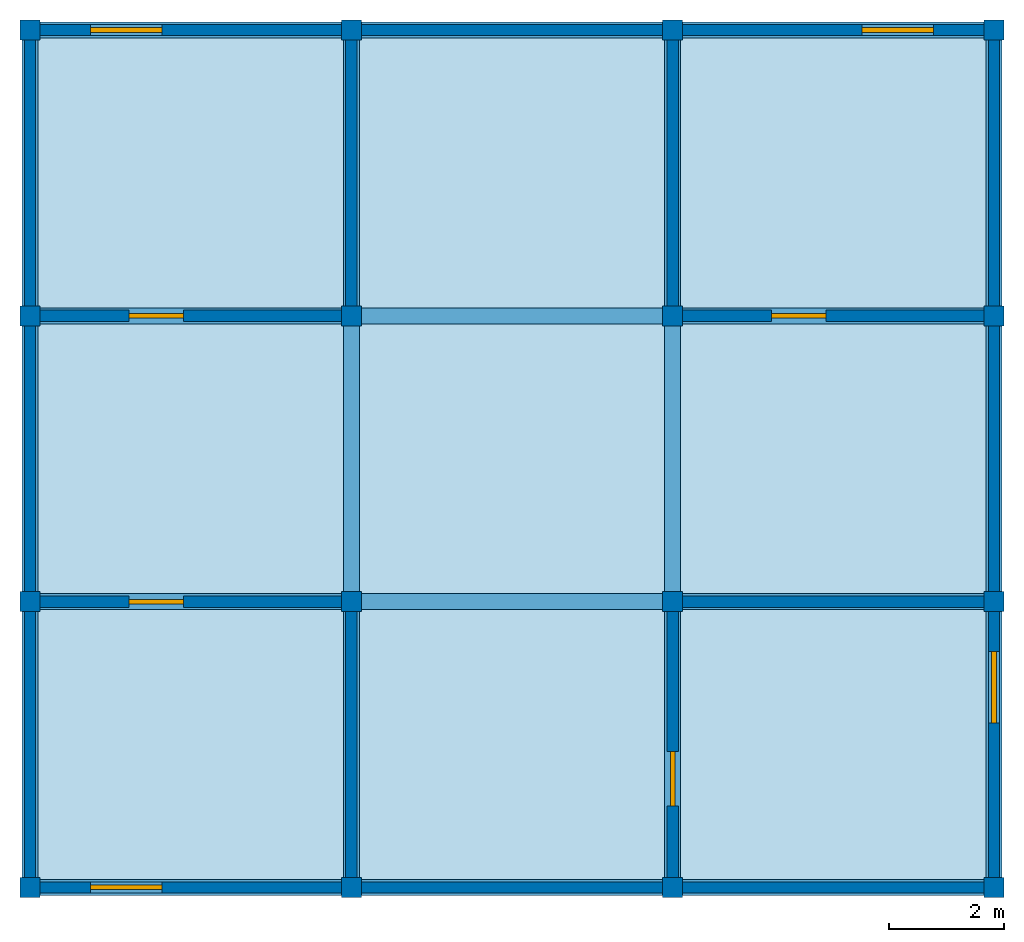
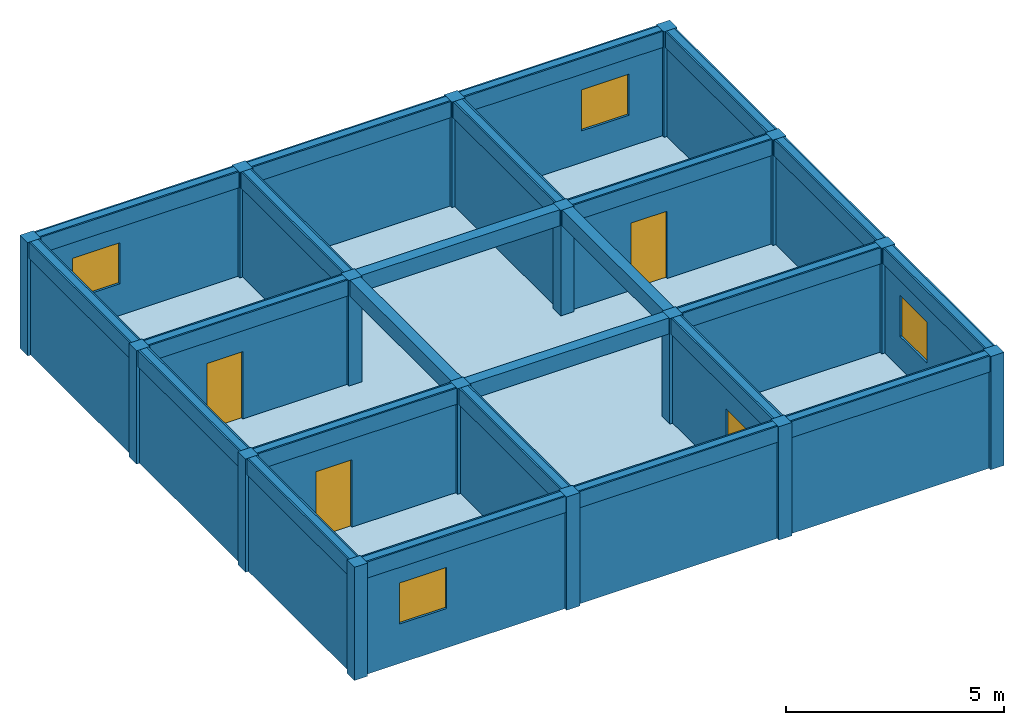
# One storey: 24 beams, 20 walls, 16 columns, 4 doors, 4 windows, 1 slab, 8 openings.
"""IFC4X3 building model written with IfcOpenShell, lengths in metres."""

from ifc_helpers import new_model, si_unit, frame, origin_with_axes, origin_2d, place, context, project, spatial, rectangle, extrude, material, element, fill, save


model = new_model("IFC4X3")

# Units and contexts
model_context = context("Model", 3, precision=1e-05, world=origin_with_axes())
ifc_project = project(units=[si_unit("LENGTHUNIT", "METRE"), si_unit("AREAUNIT", "SQUARE_METRE"), si_unit("VOLUMEUNIT", "CUBIC_METRE")], contexts=[model_context])

# Site, building, storey
site = spatial("IfcSite", under=ifc_project, Name="Puerto Montt Parcel", CompositionType="ELEMENT")
building = spatial("IfcBuilding", under=site, Name="Apex Hub", CompositionType="ELEMENT")
storey = spatial("IfcBuildingStorey", under=building, Name="Level 11", CompositionType="ELEMENT", Elevation=31.67)

# Columns
ifc_material_1 = material(Name="Timber")
column_1_placement = place(None, frame((-8.415, -7.485, 31.672), z_axis=(0.0, 0.0, 1.0), x_axis=(1.0, 0.0, 0.0)))
element("IfcColumn", 1, at=column_1_placement, inside=storey, material=ifc_material_1, Name="Column 11.1", ObjectType="Structural Column", PredefinedType="COLUMN", context=model_context, shape_type="SweptSolid", body=[
    extrude(rectangle(XDim=0.35, YDim=0.35, at=origin_2d()), origin_with_axes(), (0.0, 0.0, 1.0), 3.167),
])
column_2_placement = place(None, frame((-8.415, -2.495, 31.672), z_axis=(0.0, 0.0, 1.0), x_axis=(1.0, 0.0, 0.0)))
element("IfcColumn", 2, at=column_2_placement, inside=storey, material=ifc_material_1, Name="Column 11.2", ObjectType="Facade Column", PredefinedType="PILASTER", context=model_context, shape_type="SweptSolid", body=[
    extrude(rectangle(XDim=0.35, YDim=0.35, at=origin_2d()), origin_with_axes(), (0.0, 0.0, 1.0), 3.167),
])
column_3_placement = place(None, frame((-8.415, 2.495, 31.672), z_axis=(0.0, 0.0, 1.0), x_axis=(1.0, 0.0, 0.0)))
element("IfcColumn", 3, at=column_3_placement, inside=storey, material=ifc_material_1, Name="Column 11.3", ObjectType="Corner Column", PredefinedType="PILASTER", context=model_context, shape_type="SweptSolid", body=[
    extrude(rectangle(XDim=0.35, YDim=0.35, at=origin_2d()), origin_with_axes(), (0.0, 0.0, 1.0), 3.167),
])
column_4_placement = place(None, frame((-8.415, 7.485, 31.672), z_axis=(0.0, 0.0, 1.0), x_axis=(1.0, 0.0, 0.0)))
element("IfcColumn", 4, at=column_4_placement, inside=storey, material=ifc_material_1, Name="Column 11.4", ObjectType="Core Column", PredefinedType="NOTDEFINED", context=model_context, shape_type="SweptSolid", body=[
    extrude(rectangle(XDim=0.35, YDim=0.35, at=origin_2d()), origin_with_axes(), (0.0, 0.0, 1.0), 3.167),
])
column_5_placement = place(None, frame((-2.805, -7.485, 31.672), z_axis=(0.0, 0.0, 1.0), x_axis=(1.0, 0.0, 0.0)))
element("IfcColumn", 5, at=column_5_placement, inside=storey, material=ifc_material_1, Name="Column 11.5", ObjectType="Facade Column", PredefinedType="PILASTER", context=model_context, shape_type="SweptSolid", body=[
    extrude(rectangle(XDim=0.35, YDim=0.35, at=origin_2d()), origin_with_axes(), (0.0, 0.0, 1.0), 3.167),
])
column_6_placement = place(None, frame((-2.805, -2.495, 31.672), z_axis=(0.0, 0.0, 1.0), x_axis=(1.0, 0.0, 0.0)))
element("IfcColumn", 6, at=column_6_placement, inside=storey, material=ifc_material_1, Name="Column 11.6", ObjectType="Core Column", PredefinedType="COLUMN", context=model_context, shape_type="SweptSolid", body=[
    extrude(rectangle(XDim=0.35, YDim=0.35, at=origin_2d()), origin_with_axes(), (0.0, 0.0, 1.0), 3.167),
])
column_7_placement = place(None, frame((-2.805, 2.495, 31.672), z_axis=(0.0, 0.0, 1.0), x_axis=(1.0, 0.0, 0.0)))
element("IfcColumn", 7, at=column_7_placement, inside=storey, material=ifc_material_1, Name="Column 11.7", ObjectType="Core Column", PredefinedType="NOTDEFINED", context=model_context, shape_type="SweptSolid", body=[
    extrude(rectangle(XDim=0.35, YDim=0.35, at=origin_2d()), origin_with_axes(), (0.0, 0.0, 1.0), 3.167),
])
column_8_placement = place(None, frame((-2.805, 7.485, 31.672), z_axis=(0.0, 0.0, 1.0), x_axis=(1.0, 0.0, 0.0)))
element("IfcColumn", 8, at=column_8_placement, inside=storey, material=ifc_material_1, Name="Column 11.8", ObjectType="Structural Column", PredefinedType="NOTDEFINED", context=model_context, shape_type="SweptSolid", body=[
    extrude(rectangle(XDim=0.35, YDim=0.35, at=origin_2d()), origin_with_axes(), (0.0, 0.0, 1.0), 3.167),
])
column_9_placement = place(None, frame((2.805, -7.485, 31.672), z_axis=(0.0, 0.0, 1.0), x_axis=(1.0, 0.0, 0.0)))
element("IfcColumn", 9, at=column_9_placement, inside=storey, material=ifc_material_1, Name="Column 11.9", ObjectType="Structural Column", PredefinedType="COLUMN", context=model_context, shape_type="SweptSolid", body=[
    extrude(rectangle(XDim=0.35, YDim=0.35, at=origin_2d()), origin_with_axes(), (0.0, 0.0, 1.0), 3.167),
])
column_10_placement = place(None, frame((2.805, -2.495, 31.672), z_axis=(0.0, 0.0, 1.0), x_axis=(1.0, 0.0, 0.0)))
element("IfcColumn", 10, at=column_10_placement, inside=storey, material=ifc_material_1, Name="Column 11.10", ObjectType="Structural Column", PredefinedType="PILASTER", context=model_context, shape_type="SweptSolid", body=[
    extrude(rectangle(XDim=0.35, YDim=0.35, at=origin_2d()), origin_with_axes(), (0.0, 0.0, 1.0), 3.167),
])
column_11_placement = place(None, frame((2.805, 2.495, 31.672), z_axis=(0.0, 0.0, 1.0), x_axis=(1.0, 0.0, 0.0)))
element("IfcColumn", 11, at=column_11_placement, inside=storey, material=ifc_material_1, Name="Column 11.11", ObjectType="Corner Column", PredefinedType="USERDEFINED", context=model_context, shape_type="SweptSolid", body=[
    extrude(rectangle(XDim=0.35, YDim=0.35, at=origin_2d()), origin_with_axes(), (0.0, 0.0, 1.0), 3.167),
])
column_12_placement = place(None, frame((2.805, 7.485, 31.672), z_axis=(0.0, 0.0, 1.0), x_axis=(1.0, 0.0, 0.0)))
element("IfcColumn", 12, at=column_12_placement, inside=storey, material=ifc_material_1, Name="Column 11.12", ObjectType="Facade Column", PredefinedType="PILASTER", context=model_context, shape_type="SweptSolid", body=[
    extrude(rectangle(XDim=0.35, YDim=0.35, at=origin_2d()), origin_with_axes(), (0.0, 0.0, 1.0), 3.167),
])
column_13_placement = place(None, frame((8.415, -7.485, 31.672), z_axis=(0.0, 0.0, 1.0), x_axis=(1.0, 0.0, 0.0)))
element("IfcColumn", 13, at=column_13_placement, inside=storey, material=ifc_material_1, Name="Column 11.13", ObjectType="Structural Column", PredefinedType="PILASTER", context=model_context, shape_type="SweptSolid", body=[
    extrude(rectangle(XDim=0.35, YDim=0.35, at=origin_2d()), origin_with_axes(), (0.0, 0.0, 1.0), 3.167),
])
column_14_placement = place(None, frame((8.415, -2.495, 31.672), z_axis=(0.0, 0.0, 1.0), x_axis=(1.0, 0.0, 0.0)))
element("IfcColumn", 14, at=column_14_placement, inside=storey, material=ifc_material_1, Name="Column 11.14", ObjectType="Facade Column", PredefinedType="USERDEFINED", context=model_context, shape_type="SweptSolid", body=[
    extrude(rectangle(XDim=0.35, YDim=0.35, at=origin_2d()), origin_with_axes(), (0.0, 0.0, 1.0), 3.167),
])
column_15_placement = place(None, frame((8.415, 2.495, 31.672), z_axis=(0.0, 0.0, 1.0), x_axis=(1.0, 0.0, 0.0)))
element("IfcColumn", 15, at=column_15_placement, inside=storey, material=ifc_material_1, Name="Column 11.15", ObjectType="Corner Column", PredefinedType="COLUMN", context=model_context, shape_type="SweptSolid", body=[
    extrude(rectangle(XDim=0.35, YDim=0.35, at=origin_2d()), origin_with_axes(), (0.0, 0.0, 1.0), 3.167),
])
column_16_placement = place(None, frame((8.415, 7.485, 31.672), z_axis=(0.0, 0.0, 1.0), x_axis=(1.0, 0.0, 0.0)))
element("IfcColumn", 16, at=column_16_placement, inside=storey, material=ifc_material_1, Name="Column 11.16", ObjectType="Facade Column", PredefinedType="PILASTER", context=model_context, shape_type="SweptSolid", body=[
    extrude(rectangle(XDim=0.35, YDim=0.35, at=origin_2d()), origin_with_axes(), (0.0, 0.0, 1.0), 3.167),
])

# Beams
ifc_material_2 = material(Name="Concrete")
beam_1_placement = place(None, frame((-5.61, -7.485, 34.389), z_axis=(0.0, 0.0, 1.0), x_axis=(1.0, 0.0, 0.0)))
element("IfcBeam", 17, at=beam_1_placement, inside=storey, material=ifc_material_2, Name="Beam 11.1", ObjectType="Transfer Beam", PredefinedType="JOIST", context=model_context, shape_type="SweptSolid", body=[
    extrude(rectangle(XDim=5.61, YDim=0.28, at=origin_2d()), origin_with_axes(), (0.0, 0.0, 1.0), 0.45),
])
beam_2_placement = place(None, frame((0.0, -7.485, 34.389), z_axis=(0.0, 0.0, 1.0), x_axis=(1.0, 0.0, 0.0)))
element("IfcBeam", 18, at=beam_2_placement, inside=storey, material=ifc_material_2, Name="Beam 11.2", ObjectType="Ridge Beam", PredefinedType="BEAM", context=model_context, shape_type="SweptSolid", body=[
    extrude(rectangle(XDim=5.61, YDim=0.28, at=origin_2d()), origin_with_axes(), (0.0, 0.0, 1.0), 0.45),
])
beam_3_placement = place(None, frame((5.61, -7.485, 34.389), z_axis=(0.0, 0.0, 1.0), x_axis=(1.0, 0.0, 0.0)))
element("IfcBeam", 19, at=beam_3_placement, inside=storey, material=ifc_material_2, Name="Beam 11.3", ObjectType="Transfer Beam", PredefinedType="T_BEAM", context=model_context, shape_type="SweptSolid", body=[
    extrude(rectangle(XDim=5.61, YDim=0.28, at=origin_2d()), origin_with_axes(), (0.0, 0.0, 1.0), 0.45),
])
beam_4_placement = place(None, frame((-5.61, -2.495, 34.389), z_axis=(0.0, 0.0, 1.0), x_axis=(1.0, 0.0, 0.0)))
element("IfcBeam", 20, at=beam_4_placement, inside=storey, material=ifc_material_2, Name="Beam 11.4", ObjectType="Primary Beam", PredefinedType="NOTDEFINED", context=model_context, shape_type="SweptSolid", body=[
    extrude(rectangle(XDim=5.61, YDim=0.28, at=origin_2d()), origin_with_axes(), (0.0, 0.0, 1.0), 0.45),
])
beam_5_placement = place(None, frame((0.0, -2.495, 34.389), z_axis=(0.0, 0.0, 1.0), x_axis=(1.0, 0.0, 0.0)))
element("IfcBeam", 21, at=beam_5_placement, inside=storey, material=ifc_material_2, Name="Beam 11.5", ObjectType="Transfer Beam", PredefinedType="T_BEAM", context=model_context, shape_type="SweptSolid", body=[
    extrude(rectangle(XDim=5.61, YDim=0.28, at=origin_2d()), origin_with_axes(), (0.0, 0.0, 1.0), 0.45),
])
beam_6_placement = place(None, frame((5.61, -2.495, 34.389), z_axis=(0.0, 0.0, 1.0), x_axis=(1.0, 0.0, 0.0)))
element("IfcBeam", 22, at=beam_6_placement, inside=storey, material=ifc_material_2, Name="Beam 11.6", ObjectType="Transfer Beam", PredefinedType="HOLLOWCORE", context=model_context, shape_type="SweptSolid", body=[
    extrude(rectangle(XDim=5.61, YDim=0.28, at=origin_2d()), origin_with_axes(), (0.0, 0.0, 1.0), 0.45),
])
beam_7_placement = place(None, frame((-5.61, 2.495, 34.389), z_axis=(0.0, 0.0, 1.0), x_axis=(1.0, 0.0, 0.0)))
element("IfcBeam", 23, at=beam_7_placement, inside=storey, material=ifc_material_2, Name="Beam 11.7", ObjectType="Transfer Beam", PredefinedType="T_BEAM", context=model_context, shape_type="SweptSolid", body=[
    extrude(rectangle(XDim=5.61, YDim=0.28, at=origin_2d()), origin_with_axes(), (0.0, 0.0, 1.0), 0.45),
])
beam_8_placement = place(None, frame((0.0, 2.495, 34.389), z_axis=(0.0, 0.0, 1.0), x_axis=(1.0, 0.0, 0.0)))
element("IfcBeam", 24, at=beam_8_placement, inside=storey, material=ifc_material_2, Name="Beam 11.8", ObjectType="Transfer Beam", PredefinedType="NOTDEFINED", context=model_context, shape_type="SweptSolid", body=[
    extrude(rectangle(XDim=5.61, YDim=0.28, at=origin_2d()), origin_with_axes(), (0.0, 0.0, 1.0), 0.45),
])
beam_9_placement = place(None, frame((5.61, 2.495, 34.389), z_axis=(0.0, 0.0, 1.0), x_axis=(1.0, 0.0, 0.0)))
element("IfcBeam", 25, at=beam_9_placement, inside=storey, material=ifc_material_2, Name="Beam 11.9", ObjectType="Transfer Beam", PredefinedType="LINTEL", context=model_context, shape_type="SweptSolid", body=[
    extrude(rectangle(XDim=5.61, YDim=0.28, at=origin_2d()), origin_with_axes(), (0.0, 0.0, 1.0), 0.45),
])
beam_10_placement = place(None, frame((-5.61, 7.485, 34.389), z_axis=(0.0, 0.0, 1.0), x_axis=(1.0, 0.0, 0.0)))
element("IfcBeam", 26, at=beam_10_placement, inside=storey, material=ifc_material_2, Name="Beam 11.10", ObjectType="Rafter Beam", PredefinedType="JOIST", context=model_context, shape_type="SweptSolid", body=[
    extrude(rectangle(XDim=5.61, YDim=0.28, at=origin_2d()), origin_with_axes(), (0.0, 0.0, 1.0), 0.45),
])
beam_11_placement = place(None, frame((0.0, 7.485, 34.389), z_axis=(0.0, 0.0, 1.0), x_axis=(1.0, 0.0, 0.0)))
element("IfcBeam", 27, at=beam_11_placement, inside=storey, material=ifc_material_2, Name="Beam 11.11", ObjectType="Primary Beam", PredefinedType="LINTEL", context=model_context, shape_type="SweptSolid", body=[
    extrude(rectangle(XDim=5.61, YDim=0.28, at=origin_2d()), origin_with_axes(), (0.0, 0.0, 1.0), 0.45),
])
beam_12_placement = place(None, frame((5.61, 7.485, 34.389), z_axis=(0.0, 0.0, 1.0), x_axis=(1.0, 0.0, 0.0)))
element("IfcBeam", 28, at=beam_12_placement, inside=storey, material=ifc_material_2, Name="Beam 11.12", ObjectType="Rafter Beam", PredefinedType="SPANDREL", context=model_context, shape_type="SweptSolid", body=[
    extrude(rectangle(XDim=5.61, YDim=0.28, at=origin_2d()), origin_with_axes(), (0.0, 0.0, 1.0), 0.45),
])
beam_13_placement = place(None, frame((-8.415, -4.99, 34.389), z_axis=(0.0, 0.0, 1.0), x_axis=(0.0, 1.0, 0.0)))
element("IfcBeam", 29, at=beam_13_placement, inside=storey, material=ifc_material_2, Name="Beam 11.13", ObjectType="Ridge Beam", PredefinedType="SPANDREL", context=model_context, shape_type="SweptSolid", body=[
    extrude(rectangle(XDim=4.99, YDim=0.28, at=origin_2d()), origin_with_axes(), (0.0, 0.0, 1.0), 0.45),
])
beam_14_placement = place(None, frame((-8.415, 0.0, 34.389), z_axis=(0.0, 0.0, 1.0), x_axis=(0.0, 1.0, 0.0)))
element("IfcBeam", 30, at=beam_14_placement, inside=storey, material=ifc_material_2, Name="Beam 11.14", ObjectType="Transfer Beam", PredefinedType="T_BEAM", context=model_context, shape_type="SweptSolid", body=[
    extrude(rectangle(XDim=4.99, YDim=0.28, at=origin_2d()), origin_with_axes(), (0.0, 0.0, 1.0), 0.45),
])
beam_15_placement = place(None, frame((-8.415, 4.99, 34.389), z_axis=(0.0, 0.0, 1.0), x_axis=(0.0, 1.0, 0.0)))
element("IfcBeam", 31, at=beam_15_placement, inside=storey, material=ifc_material_2, Name="Beam 11.15", ObjectType="Rafter Beam", PredefinedType="BEAM", context=model_context, shape_type="SweptSolid", body=[
    extrude(rectangle(XDim=4.99, YDim=0.28, at=origin_2d()), origin_with_axes(), (0.0, 0.0, 1.0), 0.45),
])
beam_16_placement = place(None, frame((-2.805, -4.99, 34.389), z_axis=(0.0, 0.0, 1.0), x_axis=(0.0, 1.0, 0.0)))
element("IfcBeam", 32, at=beam_16_placement, inside=storey, material=ifc_material_2, Name="Beam 11.16", ObjectType="Secondary Beam", PredefinedType="T_BEAM", context=model_context, shape_type="SweptSolid", body=[
    extrude(rectangle(XDim=4.99, YDim=0.28, at=origin_2d()), origin_with_axes(), (0.0, 0.0, 1.0), 0.45),
])
beam_17_placement = place(None, frame((-2.805, 0.0, 34.389), z_axis=(0.0, 0.0, 1.0), x_axis=(0.0, 1.0, 0.0)))
element("IfcBeam", 33, at=beam_17_placement, inside=storey, material=ifc_material_2, Name="Beam 11.17", ObjectType="Secondary Beam", PredefinedType="HOLLOWCORE", context=model_context, shape_type="SweptSolid", body=[
    extrude(rectangle(XDim=4.99, YDim=0.28, at=origin_2d()), origin_with_axes(), (0.0, 0.0, 1.0), 0.45),
])
beam_18_placement = place(None, frame((-2.805, 4.99, 34.389), z_axis=(0.0, 0.0, 1.0), x_axis=(0.0, 1.0, 0.0)))
element("IfcBeam", 34, at=beam_18_placement, inside=storey, material=ifc_material_2, Name="Beam 11.18", ObjectType="Secondary Beam", PredefinedType="T_BEAM", context=model_context, shape_type="SweptSolid", body=[
    extrude(rectangle(XDim=4.99, YDim=0.28, at=origin_2d()), origin_with_axes(), (0.0, 0.0, 1.0), 0.45),
])
beam_19_placement = place(None, frame((2.805, -4.99, 34.389), z_axis=(0.0, 0.0, 1.0), x_axis=(0.0, 1.0, 0.0)))
element("IfcBeam", 35, at=beam_19_placement, inside=storey, material=ifc_material_2, Name="Beam 11.19", ObjectType="Rafter Beam", PredefinedType="LINTEL", context=model_context, shape_type="SweptSolid", body=[
    extrude(rectangle(XDim=4.99, YDim=0.28, at=origin_2d()), origin_with_axes(), (0.0, 0.0, 1.0), 0.45),
])
beam_20_placement = place(None, frame((2.805, 0.0, 34.389), z_axis=(0.0, 0.0, 1.0), x_axis=(0.0, 1.0, 0.0)))
element("IfcBeam", 36, at=beam_20_placement, inside=storey, material=ifc_material_2, Name="Beam 11.20", ObjectType="Secondary Beam", PredefinedType="USERDEFINED", context=model_context, shape_type="SweptSolid", body=[
    extrude(rectangle(XDim=4.99, YDim=0.28, at=origin_2d()), origin_with_axes(), (0.0, 0.0, 1.0), 0.45),
])
beam_21_placement = place(None, frame((2.805, 4.99, 34.389), z_axis=(0.0, 0.0, 1.0), x_axis=(0.0, 1.0, 0.0)))
element("IfcBeam", 37, at=beam_21_placement, inside=storey, material=ifc_material_2, Name="Beam 11.21", ObjectType="Rafter Beam", PredefinedType="LINTEL", context=model_context, shape_type="SweptSolid", body=[
    extrude(rectangle(XDim=4.99, YDim=0.28, at=origin_2d()), origin_with_axes(), (0.0, 0.0, 1.0), 0.45),
])
beam_22_placement = place(None, frame((8.415, -4.99, 34.389), z_axis=(0.0, 0.0, 1.0), x_axis=(0.0, 1.0, 0.0)))
element("IfcBeam", 38, at=beam_22_placement, inside=storey, material=ifc_material_2, Name="Beam 11.22", ObjectType="Secondary Beam", PredefinedType="USERDEFINED", context=model_context, shape_type="SweptSolid", body=[
    extrude(rectangle(XDim=4.99, YDim=0.28, at=origin_2d()), origin_with_axes(), (0.0, 0.0, 1.0), 0.45),
])
beam_23_placement = place(None, frame((8.415, 0.0, 34.389), z_axis=(0.0, 0.0, 1.0), x_axis=(0.0, 1.0, 0.0)))
element("IfcBeam", 39, at=beam_23_placement, inside=storey, material=ifc_material_2, Name="Beam 11.23", ObjectType="Rafter Beam", PredefinedType="LINTEL", context=model_context, shape_type="SweptSolid", body=[
    extrude(rectangle(XDim=4.99, YDim=0.28, at=origin_2d()), origin_with_axes(), (0.0, 0.0, 1.0), 0.45),
])
beam_24_placement = place(None, frame((8.415, 4.99, 34.389), z_axis=(0.0, 0.0, 1.0), x_axis=(0.0, 1.0, 0.0)))
element("IfcBeam", 40, at=beam_24_placement, inside=storey, material=ifc_material_2, Name="Beam 11.24", ObjectType="Primary Beam", PredefinedType="BEAM", context=model_context, shape_type="SweptSolid", body=[
    extrude(rectangle(XDim=4.99, YDim=0.28, at=origin_2d()), origin_with_axes(), (0.0, 0.0, 1.0), 0.45),
])

# Slab
slab_placement = place(None, frame((0.0, 0.0, 31.67), z_axis=(0.0, 0.0, 1.0), x_axis=(1.0, 0.0, 0.0)))
element("IfcSlab", 41, at=slab_placement, inside=storey, material=ifc_material_1, Name="Slab 11", ObjectType="Floor Slab", PredefinedType="FLOOR", context=model_context, shape_type="SweptSolid", body=[
    extrude(rectangle(XDim=16.83, YDim=14.97, at=origin_2d()), origin_with_axes(), (0.0, 0.0, 1.0), 0.22),
])

# Wall, opening, door
wall_1_placement = place(None, frame((-5.61, -2.495, 31.672), z_axis=(0.0, 0.0, 1.0), x_axis=(1.0, 0.0, 0.0)))
wall_1 = element("IfcWall", 42, at=wall_1_placement, inside=storey, material=ifc_material_2, Name="Wall 11.1", ObjectType="Corridor Partition", PredefinedType="PARTITIONING", context=model_context, shape_type="SweptSolid", body=[
    extrude(rectangle(XDim=5.61, YDim=0.196044, at=origin_2d()), origin_with_axes(), (0.0, 0.0, 1.0), 3.167),
])
opening_1_placement = place(None, frame((-6.21, -2.495, 31.672), z_axis=(0.0, 0.0, 1.0), x_axis=(1.0, 0.0, 0.0)))
opening_1 = element("IfcOpeningElement", 43, at=opening_1_placement, cuts=wall_1, Name="Door opening 11.1", ObjectType="Door Opening", PredefinedType="OPENING", context=model_context, shape_type="SweptSolid", body=[
    extrude(rectangle(XDim=0.95, YDim=0.276044, at=origin_2d()), origin_with_axes(), (0.0, 0.0, 1.0), 2.1),
])
door_1_placement = place(None, frame((-6.21, -2.495, 31.672), z_axis=(0.0, 0.0, 1.0), x_axis=(1.0, 0.0, 0.0)))
door_1 = element("IfcDoor", 44, at=door_1_placement, inside=storey, Name="Door 11.1", ObjectType="Fire Door", OverallHeight=2.1, OverallWidth=0.95, context=model_context, shape_type="SweptSolid", body=[
    extrude(rectangle(XDim=0.95, YDim=0.08, at=origin_2d()), origin_with_axes(), (0.0, 0.0, 1.0), 2.1),
])
fill(opening_1, door_1)

# Wall
wall_2_placement = place(None, frame((-2.805, -4.99, 31.672), z_axis=(0.0, 0.0, 1.0), x_axis=(0.0, 1.0, 0.0)))
element("IfcWall", 45, at=wall_2_placement, inside=storey, material=ifc_material_2, Name="Wall 11.2", ObjectType="Corridor Partition", PredefinedType="PARTITIONING", context=model_context, shape_type="SweptSolid", body=[
    extrude(rectangle(XDim=4.99, YDim=0.196044, at=origin_2d()), origin_with_axes(), (0.0, 0.0, 1.0), 3.167),
])

# Wall, opening, window
ifc_material_3 = material(Name="Gypsum")
wall_3_placement = place(None, frame((-5.61, -7.485, 31.672), z_axis=(0.0, 0.0, 1.0), x_axis=(1.0, 0.0, 0.0)))
wall_3 = element("IfcWall", 46, at=wall_3_placement, inside=storey, material=ifc_material_3, Name="Wall 11.3", ObjectType="Exterior Wall", PredefinedType="USERDEFINED", context=model_context, shape_type="SweptSolid", body=[
    extrude(rectangle(XDim=5.61, YDim=0.196044, at=origin_2d()), origin_with_axes(), (0.0, 0.0, 1.0), 3.167),
])
opening_2_placement = place(None, frame((-6.732, -7.485, 32.772), z_axis=(0.0, 0.0, 1.0), x_axis=(1.0, 0.0, 0.0)))
opening_2 = element("IfcOpeningElement", 47, at=opening_2_placement, cuts=wall_3, Name="Window opening 11.2", ObjectType="Window Opening", PredefinedType="OPENING", context=model_context, shape_type="SweptSolid", body=[
    extrude(rectangle(XDim=1.25, YDim=0.276044, at=origin_2d()), origin_with_axes(), (0.0, 0.0, 1.0), 1.15),
])
window_1_placement = place(None, frame((-6.732, -7.485, 32.772), z_axis=(0.0, 0.0, 1.0), x_axis=(1.0, 0.0, 0.0)))
window_1 = element("IfcWindow", 48, at=window_1_placement, inside=storey, Name="Window 11.2", ObjectType="Operable Window", OverallHeight=1.15, OverallWidth=1.25, context=model_context, shape_type="SweptSolid", body=[
    extrude(rectangle(XDim=1.25, YDim=0.08, at=origin_2d()), origin_with_axes(), (0.0, 0.0, 1.0), 1.15),
])
fill(opening_2, window_1)

# Wall
wall_4_placement = place(None, frame((-8.415, -4.99, 31.672), z_axis=(0.0, 0.0, 1.0), x_axis=(0.0, 1.0, 0.0)))
element("IfcWall", 49, at=wall_4_placement, inside=storey, material=ifc_material_3, Name="Wall 11.4", ObjectType="Exterior Wall", PredefinedType="PARAPET", context=model_context, shape_type="SweptSolid", body=[
    extrude(rectangle(XDim=4.99, YDim=0.196044, at=origin_2d()), origin_with_axes(), (0.0, 0.0, 1.0), 3.167),
])

# Wall, opening, door
wall_5_placement = place(None, frame((2.805, -4.99, 31.672), z_axis=(0.0, 0.0, 1.0), x_axis=(0.0, 1.0, 0.0)))
wall_5 = element("IfcWall", 50, at=wall_5_placement, inside=storey, material=ifc_material_2, Name="Wall 11.5", ObjectType="Corridor Partition", PredefinedType="MOVABLE", context=model_context, shape_type="SweptSolid", body=[
    extrude(rectangle(XDim=4.99, YDim=0.196044, at=origin_2d()), origin_with_axes(), (0.0, 0.0, 1.0), 3.167),
])
opening_3_placement = place(None, frame((2.805, -5.59, 31.672), z_axis=(0.0, 0.0, 1.0), x_axis=(0.0, 1.0, 0.0)))
opening_3 = element("IfcOpeningElement", 51, at=opening_3_placement, cuts=wall_5, Name="Door opening 11.3", ObjectType="Door Opening", PredefinedType="OPENING", context=model_context, shape_type="SweptSolid", body=[
    extrude(rectangle(XDim=0.95, YDim=0.276044, at=origin_2d()), origin_with_axes(), (0.0, 0.0, 1.0), 2.1),
])
door_2_placement = place(None, frame((2.805, -5.59, 31.672), z_axis=(0.0, 0.0, 1.0), x_axis=(0.0, 1.0, 0.0)))
door_2 = element("IfcDoor", 52, at=door_2_placement, inside=storey, Name="Door 11.3", ObjectType="Fire Door", OverallHeight=2.1, OverallWidth=0.95, context=model_context, shape_type="SweptSolid", body=[
    extrude(rectangle(XDim=0.95, YDim=0.08, at=origin_2d()), origin_with_axes(), (0.0, 0.0, 1.0), 2.1),
])
fill(opening_3, door_2)

# Walls
wall_6_placement = place(None, frame((0.0, -7.485, 31.672), z_axis=(0.0, 0.0, 1.0), x_axis=(1.0, 0.0, 0.0)))
element("IfcWall", 53, at=wall_6_placement, inside=storey, material=ifc_material_2, Name="Wall 11.6", ObjectType="Exterior Wall", PredefinedType="SHEAR", context=model_context, shape_type="SweptSolid", body=[
    extrude(rectangle(XDim=5.61, YDim=0.196044, at=origin_2d()), origin_with_axes(), (0.0, 0.0, 1.0), 3.167),
])
wall_7_placement = place(None, frame((5.61, -2.495, 31.672), z_axis=(0.0, 0.0, 1.0), x_axis=(1.0, 0.0, 0.0)))
element("IfcWall", 54, at=wall_7_placement, inside=storey, material=ifc_material_2, Name="Wall 11.7", ObjectType="Corridor Partition", PredefinedType="PLUMBINGWALL", context=model_context, shape_type="SweptSolid", body=[
    extrude(rectangle(XDim=5.61, YDim=0.196044, at=origin_2d()), origin_with_axes(), (0.0, 0.0, 1.0), 3.167),
])

# Wall, opening, window
wall_8_placement = place(None, frame((8.415, -4.99, 31.672), z_axis=(0.0, 0.0, 1.0), x_axis=(0.0, 1.0, 0.0)))
wall_8 = element("IfcWall", 55, at=wall_8_placement, inside=storey, material=ifc_material_2, Name="Wall 11.8", ObjectType="Exterior Wall", PredefinedType="MOVABLE", context=model_context, shape_type="SweptSolid", body=[
    extrude(rectangle(XDim=4.99, YDim=0.196044, at=origin_2d()), origin_with_axes(), (0.0, 0.0, 1.0), 3.167),
])
opening_4_placement = place(None, frame((8.415, -3.992, 32.772), z_axis=(0.0, 0.0, 1.0), x_axis=(0.0, 1.0, 0.0)))
opening_4 = element("IfcOpeningElement", 56, at=opening_4_placement, cuts=wall_8, Name="Window opening 11.4", ObjectType="Window Opening", PredefinedType="OPENING", context=model_context, shape_type="SweptSolid", body=[
    extrude(rectangle(XDim=1.25, YDim=0.276044, at=origin_2d()), origin_with_axes(), (0.0, 0.0, 1.0), 1.15),
])
window_2_placement = place(None, frame((8.415, -3.992, 32.772), z_axis=(0.0, 0.0, 1.0), x_axis=(0.0, 1.0, 0.0)))
window_2 = element("IfcWindow", 57, at=window_2_placement, inside=storey, Name="Window 11.4", ObjectType="Louvre Window", OverallHeight=1.15, OverallWidth=1.25, context=model_context, shape_type="SweptSolid", body=[
    extrude(rectangle(XDim=1.25, YDim=0.08, at=origin_2d()), origin_with_axes(), (0.0, 0.0, 1.0), 1.15),
])
fill(opening_4, window_2)

# Wall
ifc_material_4 = material(Name="CLT")
wall_9_placement = place(None, frame((5.61, -7.485, 31.672), z_axis=(0.0, 0.0, 1.0), x_axis=(1.0, 0.0, 0.0)))
element("IfcWall", 58, at=wall_9_placement, inside=storey, material=ifc_material_4, Name="Wall 11.9", ObjectType="Exterior Wall", PredefinedType="SOLIDWALL", context=model_context, shape_type="SweptSolid", body=[
    extrude(rectangle(XDim=5.61, YDim=0.196044, at=origin_2d()), origin_with_axes(), (0.0, 0.0, 1.0), 3.167),
])

# Wall, opening, door
ifc_material_5 = material(Name="Brick")
wall_10_placement = place(None, frame((-5.61, 2.495, 31.672), z_axis=(0.0, 0.0, 1.0), x_axis=(1.0, 0.0, 0.0)))
wall_10 = element("IfcWall", 59, at=wall_10_placement, inside=storey, material=ifc_material_5, Name="Wall 11.10", ObjectType="Corridor Partition", PredefinedType="NOTDEFINED", context=model_context, shape_type="SweptSolid", body=[
    extrude(rectangle(XDim=5.61, YDim=0.196044, at=origin_2d()), origin_with_axes(), (0.0, 0.0, 1.0), 3.167),
])
opening_5_placement = place(None, frame((-6.21, 2.495, 31.672), z_axis=(0.0, 0.0, 1.0), x_axis=(1.0, 0.0, 0.0)))
opening_5 = element("IfcOpeningElement", 60, at=opening_5_placement, cuts=wall_10, Name="Door opening 11.5", ObjectType="Door Opening", PredefinedType="OPENING", context=model_context, shape_type="SweptSolid", body=[
    extrude(rectangle(XDim=0.95, YDim=0.276044, at=origin_2d()), origin_with_axes(), (0.0, 0.0, 1.0), 2.1),
])
door_3_placement = place(None, frame((-6.21, 2.495, 31.672), z_axis=(0.0, 0.0, 1.0), x_axis=(1.0, 0.0, 0.0)))
door_3 = element("IfcDoor", 61, at=door_3_placement, inside=storey, Name="Door 11.5", ObjectType="Entry Door", OverallHeight=2.1, OverallWidth=0.95, context=model_context, shape_type="SweptSolid", body=[
    extrude(rectangle(XDim=0.95, YDim=0.08, at=origin_2d()), origin_with_axes(), (0.0, 0.0, 1.0), 2.1),
])
fill(opening_5, door_3)

# Wall
wall_11_placement = place(None, frame((-8.415, 0.0, 31.672), z_axis=(0.0, 0.0, 1.0), x_axis=(0.0, 1.0, 0.0)))
element("IfcWall", 62, at=wall_11_placement, inside=storey, material=ifc_material_4, Name="Wall 11.11", ObjectType="Exterior Wall", PredefinedType="POLYGONAL", context=model_context, shape_type="SweptSolid", body=[
    extrude(rectangle(XDim=4.99, YDim=0.196044, at=origin_2d()), origin_with_axes(), (0.0, 0.0, 1.0), 3.167),
])

# Wall, opening, door
wall_12_placement = place(None, frame((5.61, 2.495, 31.672), z_axis=(0.0, 0.0, 1.0), x_axis=(1.0, 0.0, 0.0)))
wall_12 = element("IfcWall", 63, at=wall_12_placement, inside=storey, material=ifc_material_4, Name="Wall 11.12", ObjectType="Corridor Partition", PredefinedType="POLYGONAL", context=model_context, shape_type="SweptSolid", body=[
    extrude(rectangle(XDim=5.61, YDim=0.196044, at=origin_2d()), origin_with_axes(), (0.0, 0.0, 1.0), 3.167),
])
opening_6_placement = place(None, frame((5.01, 2.495, 31.672), z_axis=(0.0, 0.0, 1.0), x_axis=(1.0, 0.0, 0.0)))
opening_6 = element("IfcOpeningElement", 64, at=opening_6_placement, cuts=wall_12, Name="Door opening 11.7", ObjectType="Door Opening", PredefinedType="OPENING", context=model_context, shape_type="SweptSolid", body=[
    extrude(rectangle(XDim=0.95, YDim=0.276044, at=origin_2d()), origin_with_axes(), (0.0, 0.0, 1.0), 2.1),
])
door_4_placement = place(None, frame((5.01, 2.495, 31.672), z_axis=(0.0, 0.0, 1.0), x_axis=(1.0, 0.0, 0.0)))
door_4 = element("IfcDoor", 65, at=door_4_placement, inside=storey, Name="Door 11.7", ObjectType="Entry Door", OverallHeight=2.1, OverallWidth=0.95, context=model_context, shape_type="SweptSolid", body=[
    extrude(rectangle(XDim=0.95, YDim=0.08, at=origin_2d()), origin_with_axes(), (0.0, 0.0, 1.0), 2.1),
])
fill(opening_6, door_4)

# Wall
wall_13_placement = place(None, frame((8.415, 0.0, 31.672), z_axis=(0.0, 0.0, 1.0), x_axis=(0.0, 1.0, 0.0)))
element("IfcWall", 66, at=wall_13_placement, inside=storey, material=ifc_material_3, Name="Wall 11.13", ObjectType="Exterior Wall", PredefinedType="PARTITIONING", context=model_context, shape_type="SweptSolid", body=[
    extrude(rectangle(XDim=4.99, YDim=0.196044, at=origin_2d()), origin_with_axes(), (0.0, 0.0, 1.0), 3.167),
])

# Wall, opening, window
wall_14_placement = place(None, frame((-5.61, 7.485, 31.672), z_axis=(0.0, 0.0, 1.0), x_axis=(1.0, 0.0, 0.0)))
wall_14 = element("IfcWall", 67, at=wall_14_placement, inside=storey, material=ifc_material_5, Name="Wall 11.14", ObjectType="Exterior Wall", PredefinedType="SHEAR", context=model_context, shape_type="SweptSolid", body=[
    extrude(rectangle(XDim=5.61, YDim=0.196044, at=origin_2d()), origin_with_axes(), (0.0, 0.0, 1.0), 3.167),
])
opening_7_placement = place(None, frame((-6.732, 7.485, 32.772), z_axis=(0.0, 0.0, 1.0), x_axis=(1.0, 0.0, 0.0)))
opening_7 = element("IfcOpeningElement", 68, at=opening_7_placement, cuts=wall_14, Name="Window opening 11.6", ObjectType="Window Opening", PredefinedType="OPENING", context=model_context, shape_type="SweptSolid", body=[
    extrude(rectangle(XDim=1.25, YDim=0.276044, at=origin_2d()), origin_with_axes(), (0.0, 0.0, 1.0), 1.15),
])
window_3_placement = place(None, frame((-6.732, 7.485, 32.772), z_axis=(0.0, 0.0, 1.0), x_axis=(1.0, 0.0, 0.0)))
window_3 = element("IfcWindow", 69, at=window_3_placement, inside=storey, Name="Window 11.6", ObjectType="Curtain Window", OverallHeight=1.15, OverallWidth=1.25, context=model_context, shape_type="SweptSolid", body=[
    extrude(rectangle(XDim=1.25, YDim=0.08, at=origin_2d()), origin_with_axes(), (0.0, 0.0, 1.0), 1.15),
])
fill(opening_7, window_3)

# Walls
wall_15_placement = place(None, frame((-2.805, 4.99, 31.672), z_axis=(0.0, 0.0, 1.0), x_axis=(0.0, 1.0, 0.0)))
element("IfcWall", 70, at=wall_15_placement, inside=storey, material=ifc_material_3, Name="Wall 11.15", ObjectType="Corridor Partition", PredefinedType="NOTDEFINED", context=model_context, shape_type="SweptSolid", body=[
    extrude(rectangle(XDim=4.99, YDim=0.196044, at=origin_2d()), origin_with_axes(), (0.0, 0.0, 1.0), 3.167),
])
wall_16_placement = place(None, frame((-8.415, 4.99, 31.672), z_axis=(0.0, 0.0, 1.0), x_axis=(0.0, 1.0, 0.0)))
element("IfcWall", 71, at=wall_16_placement, inside=storey, material=ifc_material_4, Name="Wall 11.16", ObjectType="Exterior Wall", PredefinedType="SHEAR", context=model_context, shape_type="SweptSolid", body=[
    extrude(rectangle(XDim=4.99, YDim=0.196044, at=origin_2d()), origin_with_axes(), (0.0, 0.0, 1.0), 3.167),
])
wall_17_placement = place(None, frame((0.0, 7.485, 31.672), z_axis=(0.0, 0.0, 1.0), x_axis=(1.0, 0.0, 0.0)))
element("IfcWall", 72, at=wall_17_placement, inside=storey, material=ifc_material_3, Name="Wall 11.17", ObjectType="Exterior Wall", PredefinedType="POLYGONAL", context=model_context, shape_type="SweptSolid", body=[
    extrude(rectangle(XDim=5.61, YDim=0.196044, at=origin_2d()), origin_with_axes(), (0.0, 0.0, 1.0), 3.167),
])
wall_18_placement = place(None, frame((2.805, 4.99, 31.672), z_axis=(0.0, 0.0, 1.0), x_axis=(0.0, 1.0, 0.0)))
element("IfcWall", 73, at=wall_18_placement, inside=storey, material=ifc_material_3, Name="Wall 11.18", ObjectType="Corridor Partition", PredefinedType="SOLIDWALL", context=model_context, shape_type="SweptSolid", body=[
    extrude(rectangle(XDim=4.99, YDim=0.196044, at=origin_2d()), origin_with_axes(), (0.0, 0.0, 1.0), 3.167),
])

# Wall, opening, window
wall_19_placement = place(None, frame((5.61, 7.485, 31.672), z_axis=(0.0, 0.0, 1.0), x_axis=(1.0, 0.0, 0.0)))
wall_19 = element("IfcWall", 74, at=wall_19_placement, inside=storey, material=ifc_material_4, Name="Wall 11.19", ObjectType="Exterior Wall", PredefinedType="PARAPET", context=model_context, shape_type="SweptSolid", body=[
    extrude(rectangle(XDim=5.61, YDim=0.196044, at=origin_2d()), origin_with_axes(), (0.0, 0.0, 1.0), 3.167),
])
opening_8_placement = place(None, frame((6.732, 7.485, 32.772), z_axis=(0.0, 0.0, 1.0), x_axis=(1.0, 0.0, 0.0)))
opening_8 = element("IfcOpeningElement", 75, at=opening_8_placement, cuts=wall_19, Name="Window opening 11.8", ObjectType="Window Opening", PredefinedType="OPENING", context=model_context, shape_type="SweptSolid", body=[
    extrude(rectangle(XDim=1.25, YDim=0.276044, at=origin_2d()), origin_with_axes(), (0.0, 0.0, 1.0), 1.15),
])
window_4_placement = place(None, frame((6.732, 7.485, 32.772), z_axis=(0.0, 0.0, 1.0), x_axis=(1.0, 0.0, 0.0)))
window_4 = element("IfcWindow", 76, at=window_4_placement, inside=storey, Name="Window 11.8", ObjectType="Curtain Window", OverallHeight=1.15, OverallWidth=1.25, context=model_context, shape_type="SweptSolid", body=[
    extrude(rectangle(XDim=1.25, YDim=0.08, at=origin_2d()), origin_with_axes(), (0.0, 0.0, 1.0), 1.15),
])
fill(opening_8, window_4)

# Wall
wall_20_placement = place(None, frame((8.415, 4.99, 31.672), z_axis=(0.0, 0.0, 1.0), x_axis=(0.0, 1.0, 0.0)))
element("IfcWall", 77, at=wall_20_placement, inside=storey, material=ifc_material_3, Name="Wall 11.20", ObjectType="Exterior Wall", PredefinedType="NOTDEFINED", context=model_context, shape_type="SweptSolid", body=[
    extrude(rectangle(XDim=4.99, YDim=0.196044, at=origin_2d()), origin_with_axes(), (0.0, 0.0, 1.0), 3.167),
])

save(model, "model.ifc")
